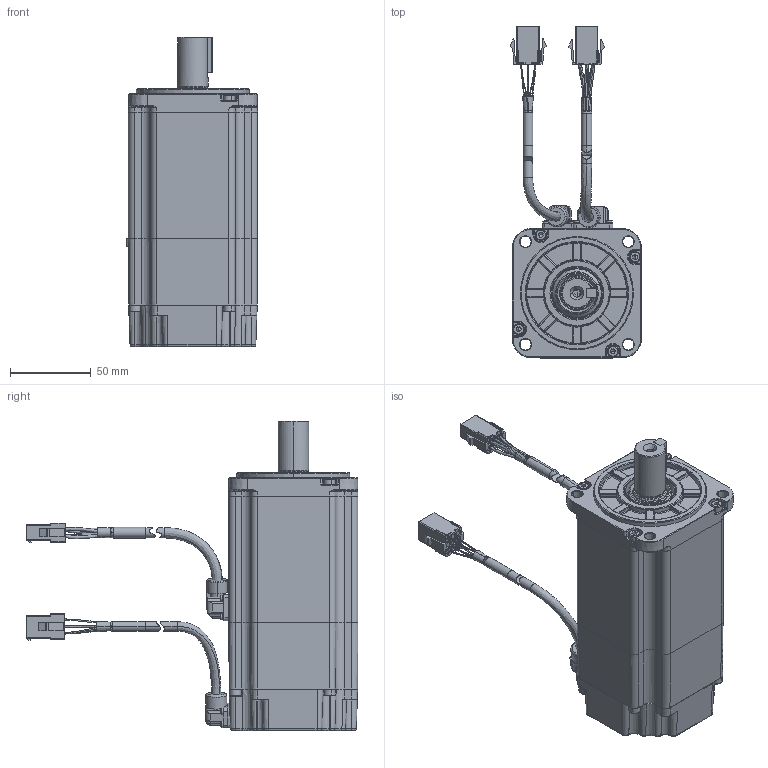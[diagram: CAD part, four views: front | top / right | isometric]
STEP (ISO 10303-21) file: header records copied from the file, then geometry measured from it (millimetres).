
FILE_DESCRIPTION (( 'STEP AP214' ), '1' );
FILE_NAME ('4030810-↓↓↓↓_80萇儂_DM1M-10A80↓8E_A0.STEP', '2020-05-05T02:46:41', ( '' ), ( '' ), 'SwSTEP 2.0', 'SolidWorks 2018', '' );
FILE_SCHEMA (( 'AUTOMOTIVE_DESIGN' ));
Length unit declared in the file: millimetre
Products named in the file (1): 4030810-↓↓↓↓_80萇儂_DM1M-10A80↓8E_A0
Bounding box: 81.15 x 205.5 x 191.7 mm (x, y, z)
Surface area: 83024.9 mm2 (no closed solid volume)
Topology: 0 solids, 64 shells, 1348 faces, 4536 edges, 3137 vertices
Faces by surface type: plane 577, cylinder 320, cone 150, bspline 149, torus 124, sphere 28
Entity records: 69463 total; most frequent: CARTESIAN_POINT 16550, DIRECTION 7860, ORIENTED_EDGE 7353, EDGE_CURVE 4508, VERTEX_POINT 3137, AXIS2_PLACEMENT_3D 2657, LINE 2546, VECTOR 2546
